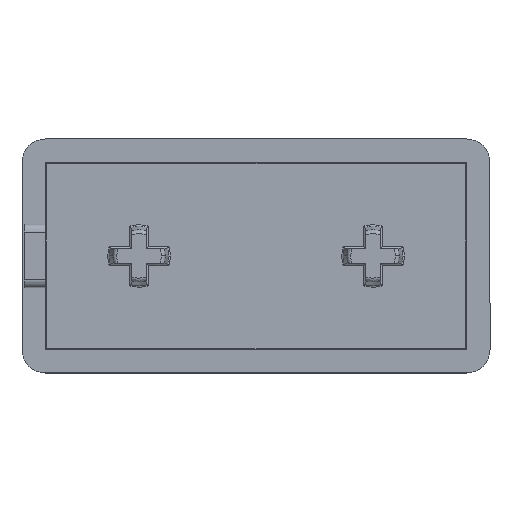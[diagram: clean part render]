
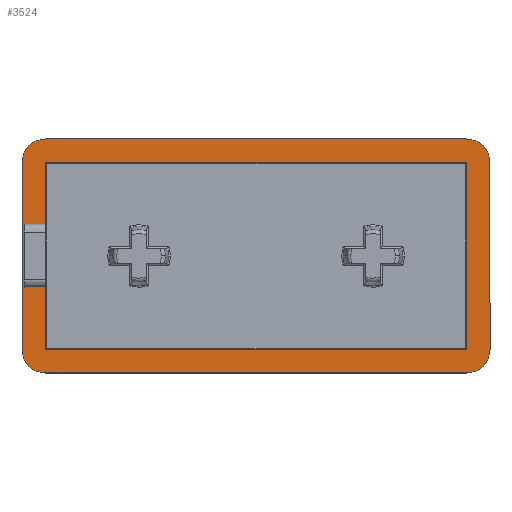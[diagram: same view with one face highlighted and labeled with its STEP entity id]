
A CAD part, top view. The second image highlights one B-rep face of the part: STEP entity #3524.
In plain terms, the highlighted planar face has unit normal (0, 0, 1).
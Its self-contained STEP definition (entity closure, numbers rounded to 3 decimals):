
#68 = LINE ( 'NONE', #2094, #3297 ) ;
#72 = DIRECTION ( 'NONE',  ( 0., 1., 0. ) ) ;
#101 = DIRECTION ( 'NONE',  ( 1., 0., 0. ) ) ;
#119 = CIRCLE ( 'NONE', #1400, 3. ) ;
#134 = VERTEX_POINT ( 'NONE', #3732 ) ;
#158 = EDGE_CURVE ( 'NONE', #3602, #2301, #3293, .T. ) ;
#170 = CARTESIAN_POINT ( 'NONE',  ( 45., 12., 4. ) ) ;
#191 = CARTESIAN_POINT ( 'NONE',  ( -12., -12., 4. ) ) ;
#205 = AXIS2_PLACEMENT_3D ( 'NONE', #2347, #3498, #3231 ) ;
#213 = EDGE_CURVE ( 'NONE', #3206, #530, #343, .T. ) ;
#215 = CARTESIAN_POINT ( 'NONE',  ( 45., -12., 4. ) ) ;
#262 = VERTEX_POINT ( 'NONE', #3576 ) ;
#312 = ORIENTED_EDGE ( 'NONE', *, *, #3295, .T. ) ;
#317 = ORIENTED_EDGE ( 'NONE', *, *, #546, .F. ) ;
#318 = CARTESIAN_POINT ( 'NONE',  ( 42., -12., 4. ) ) ;
#321 = ORIENTED_EDGE ( 'NONE', *, *, #348, .T. ) ;
#343 = LINE ( 'NONE', #2720, #818 ) ;
#348 = EDGE_CURVE ( 'NONE', #2365, #1784, #1188, .T. ) ;
#381 = EDGE_CURVE ( 'NONE', #558, #3532, #68, .T. ) ;
#439 = CARTESIAN_POINT ( 'NONE',  ( -12., 4.05, 4. ) ) ;
#503 = DIRECTION ( 'NONE',  ( 1., 0., 0. ) ) ;
#523 = VERTEX_POINT ( 'NONE', #2381 ) ;
#527 = DIRECTION ( 'NONE',  ( 0., -1., 0. ) ) ;
#530 = VERTEX_POINT ( 'NONE', #2953 ) ;
#546 = EDGE_CURVE ( 'NONE', #262, #530, #3289, .T. ) ;
#558 = VERTEX_POINT ( 'NONE', #1704 ) ;
#607 = LINE ( 'NONE', #1760, #3046 ) ;
#611 = ORIENTED_EDGE ( 'NONE', *, *, #993, .T. ) ;
#680 = EDGE_CURVE ( 'NONE', #2301, #3184, #3182, .T. ) ;
#698 = VECTOR ( 'NONE', #2570, 1000. ) ;
#753 = ORIENTED_EDGE ( 'NONE', *, *, #1284, .T. ) ;
#803 = ORIENTED_EDGE ( 'NONE', *, *, #158, .T. ) ;
#818 = VECTOR ( 'NONE', #2979, 1000. ) ;
#819 = DIRECTION ( 'NONE',  ( 0., 1., 0. ) ) ;
#826 = EDGE_CURVE ( 'NONE', #262, #2628, #3452, .T. ) ;
#864 = LINE ( 'NONE', #2241, #698 ) ;
#865 = ORIENTED_EDGE ( 'NONE', *, *, #3635, .T. ) ;
#868 = DIRECTION ( 'NONE',  ( 0., 1., 0. ) ) ;
#882 = DIRECTION ( 'NONE',  ( 0., 0., 1. ) ) ;
#917 = VERTEX_POINT ( 'NONE', #1786 ) ;
#984 = ORIENTED_EDGE ( 'NONE', *, *, #2637, .T. ) ;
#991 = CARTESIAN_POINT ( 'NONE',  ( -15., 12., 4. ) ) ;
#993 = EDGE_CURVE ( 'NONE', #917, #558, #1318, .T. ) ;
#1038 = VECTOR ( 'NONE', #1625, 1000. ) ;
#1048 = CARTESIAN_POINT ( 'NONE',  ( 45., 4.05, 4. ) ) ;
#1070 = CIRCLE ( 'NONE', #205, 3. ) ;
#1188 = CIRCLE ( 'NONE', #3171, 3. ) ;
#1202 = VERTEX_POINT ( 'NONE', #439 ) ;
#1247 = DIRECTION ( 'NONE',  ( 0., 0., 1. ) ) ;
#1260 = VERTEX_POINT ( 'NONE', #3669 ) ;
#1264 = CARTESIAN_POINT ( 'NONE',  ( 42., -12., 4. ) ) ;
#1284 = EDGE_CURVE ( 'NONE', #1202, #917, #3440, .T. ) ;
#1318 = LINE ( 'NONE', #170, #2759 ) ;
#1333 = AXIS2_PLACEMENT_3D ( 'NONE', #3264, #1247, #101 ) ;
#1350 = ORIENTED_EDGE ( 'NONE', *, *, #381, .T. ) ;
#1377 = CARTESIAN_POINT ( 'NONE',  ( 45., 12., 4. ) ) ;
#1400 = AXIS2_PLACEMENT_3D ( 'NONE', #2316, #882, #1778 ) ;
#1403 = CARTESIAN_POINT ( 'NONE',  ( -12., -15., 4. ) ) ;
#1435 = DIRECTION ( 'NONE',  ( 0., -1., 0. ) ) ;
#1443 = EDGE_CURVE ( 'NONE', #2628, #523, #1070, .T. ) ;
#1477 = CARTESIAN_POINT ( 'NONE',  ( -15., 15., 4. ) ) ;
#1482 = VECTOR ( 'NONE', #1794, 1000. ) ;
#1509 = EDGE_LOOP ( 'NONE', ( #2330, #3323, #984, #321, #312, #2743, #3752, #317 ) ) ;
#1625 = DIRECTION ( 'NONE',  ( -1., 0., 0. ) ) ;
#1657 = ORIENTED_EDGE ( 'NONE', *, *, #2736, .T. ) ;
#1665 = CARTESIAN_POINT ( 'NONE',  ( -12., 15., 4. ) ) ;
#1704 = CARTESIAN_POINT ( 'NONE',  ( 42., 12., 4. ) ) ;
#1760 = CARTESIAN_POINT ( 'NONE',  ( -14.7, -15., 4. ) ) ;
#1778 = DIRECTION ( 'NONE',  ( -1., 0., 0. ) ) ;
#1784 = VERTEX_POINT ( 'NONE', #991 ) ;
#1786 = CARTESIAN_POINT ( 'NONE',  ( -12., 12., 4. ) ) ;
#1794 = DIRECTION ( 'NONE',  ( 0., 1., 0. ) ) ;
#1812 = CARTESIAN_POINT ( 'NONE',  ( -14.7, -4.05, 4. ) ) ;
#1873 = VECTOR ( 'NONE', #503, 1000. ) ;
#1903 = DIRECTION ( 'NONE',  ( 1., 0., 0. ) ) ;
#1992 = CARTESIAN_POINT ( 'NONE',  ( 45., 15., 4. ) ) ;
#2048 = CARTESIAN_POINT ( 'NONE',  ( 45., -4.05, 4. ) ) ;
#2067 = EDGE_CURVE ( 'NONE', #134, #3206, #119, .T. ) ;
#2075 = DIRECTION ( 'NONE',  ( -1., 0., 0. ) ) ;
#2094 = CARTESIAN_POINT ( 'NONE',  ( 42., -15., 4. ) ) ;
#2140 = AXIS2_PLACEMENT_3D ( 'NONE', #318, #3514, #2075 ) ;
#2215 = DIRECTION ( 'NONE',  ( 0., 0., 1. ) ) ;
#2220 = LINE ( 'NONE', #1048, #1873 ) ;
#2241 = CARTESIAN_POINT ( 'NONE',  ( -15., 15., 4. ) ) ;
#2301 = VERTEX_POINT ( 'NONE', #3464 ) ;
#2316 = CARTESIAN_POINT ( 'NONE',  ( -12., -12., 4. ) ) ;
#2328 = VECTOR ( 'NONE', #2907, 1000. ) ;
#2330 = ORIENTED_EDGE ( 'NONE', *, *, #826, .T. ) ;
#2347 = CARTESIAN_POINT ( 'NONE',  ( 42., 12., 4. ) ) ;
#2365 = VERTEX_POINT ( 'NONE', #1665 ) ;
#2381 = CARTESIAN_POINT ( 'NONE',  ( 42., 15., 4. ) ) ;
#2400 = FACE_OUTER_BOUND ( 'NONE', #1509, .T. ) ;
#2496 = EDGE_LOOP ( 'NONE', ( #1350, #2572, #803, #2972, #1657, #865, #753, #611 ) ) ;
#2570 = DIRECTION ( 'NONE',  ( -1., 0., 0. ) ) ;
#2572 = ORIENTED_EDGE ( 'NONE', *, *, #3212, .T. ) ;
#2577 = LINE ( 'NONE', #1477, #3137 ) ;
#2628 = VERTEX_POINT ( 'NONE', #1377 ) ;
#2637 = EDGE_CURVE ( 'NONE', #523, #2365, #864, .T. ) ;
#2691 = PLANE ( 'NONE',  #1333 ) ;
#2720 = CARTESIAN_POINT ( 'NONE',  ( -15., -15., 4. ) ) ;
#2736 = EDGE_CURVE ( 'NONE', #3184, #1260, #607, .T. ) ;
#2743 = ORIENTED_EDGE ( 'NONE', *, *, #2067, .T. ) ;
#2759 = VECTOR ( 'NONE', #1903, 1000. ) ;
#2816 = VECTOR ( 'NONE', #868, 1000. ) ;
#2825 = LINE ( 'NONE', #215, #1038 ) ;
#2861 = CARTESIAN_POINT ( 'NONE',  ( -12., -15., 4. ) ) ;
#2907 = DIRECTION ( 'NONE',  ( -1., 0., 0. ) ) ;
#2953 = CARTESIAN_POINT ( 'NONE',  ( 42., -15., 4. ) ) ;
#2972 = ORIENTED_EDGE ( 'NONE', *, *, #680, .T. ) ;
#2979 = DIRECTION ( 'NONE',  ( 1., 0., 0. ) ) ;
#3016 = CARTESIAN_POINT ( 'NONE',  ( -12., -15., 4. ) ) ;
#3046 = VECTOR ( 'NONE', #72, 1000. ) ;
#3087 = DIRECTION ( 'NONE',  ( -1., 0., 0. ) ) ;
#3137 = VECTOR ( 'NONE', #1435, 1000. ) ;
#3171 = AXIS2_PLACEMENT_3D ( 'NONE', #3403, #2215, #3087 ) ;
#3182 = LINE ( 'NONE', #2048, #2328 ) ;
#3184 = VERTEX_POINT ( 'NONE', #1812 ) ;
#3206 = VERTEX_POINT ( 'NONE', #1403 ) ;
#3212 = EDGE_CURVE ( 'NONE', #3532, #3602, #2825, .T. ) ;
#3231 = DIRECTION ( 'NONE',  ( -1., 0., 0. ) ) ;
#3264 = CARTESIAN_POINT ( 'NONE',  ( 45., -15., 4. ) ) ;
#3289 = CIRCLE ( 'NONE', #2140, 3. ) ;
#3293 = LINE ( 'NONE', #3016, #1482 ) ;
#3295 = EDGE_CURVE ( 'NONE', #1784, #134, #2577, .T. ) ;
#3297 = VECTOR ( 'NONE', #527, 1000. ) ;
#3323 = ORIENTED_EDGE ( 'NONE', *, *, #1443, .T. ) ;
#3403 = CARTESIAN_POINT ( 'NONE',  ( -12., 12., 4. ) ) ;
#3440 = LINE ( 'NONE', #2861, #3598 ) ;
#3452 = LINE ( 'NONE', #1992, #2816 ) ;
#3464 = CARTESIAN_POINT ( 'NONE',  ( -12., -4.05, 4. ) ) ;
#3498 = DIRECTION ( 'NONE',  ( 0., 0., 1. ) ) ;
#3514 = DIRECTION ( 'NONE',  ( 0., 0., -1. ) ) ;
#3524 = ADVANCED_FACE ( 'NONE', ( #3551, #2400 ), #2691, .T. ) ;
#3532 = VERTEX_POINT ( 'NONE', #1264 ) ;
#3551 = FACE_BOUND ( 'NONE', #2496, .T. ) ;
#3576 = CARTESIAN_POINT ( 'NONE',  ( 45., -12., 4. ) ) ;
#3598 = VECTOR ( 'NONE', #819, 1000. ) ;
#3602 = VERTEX_POINT ( 'NONE', #191 ) ;
#3635 = EDGE_CURVE ( 'NONE', #1260, #1202, #2220, .T. ) ;
#3669 = CARTESIAN_POINT ( 'NONE',  ( -14.7, 4.05, 4. ) ) ;
#3732 = CARTESIAN_POINT ( 'NONE',  ( -15., -12., 4. ) ) ;
#3752 = ORIENTED_EDGE ( 'NONE', *, *, #213, .T. ) ;
